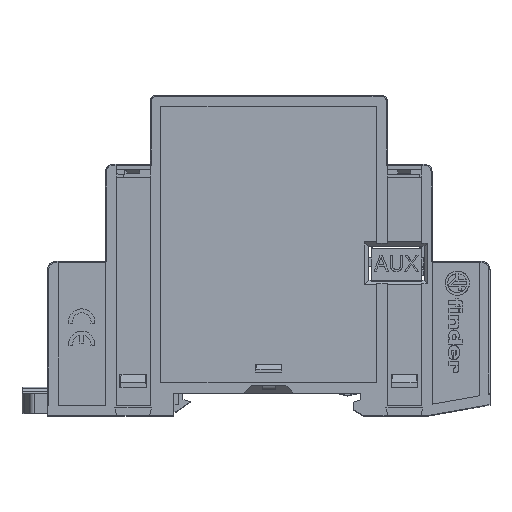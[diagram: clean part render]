
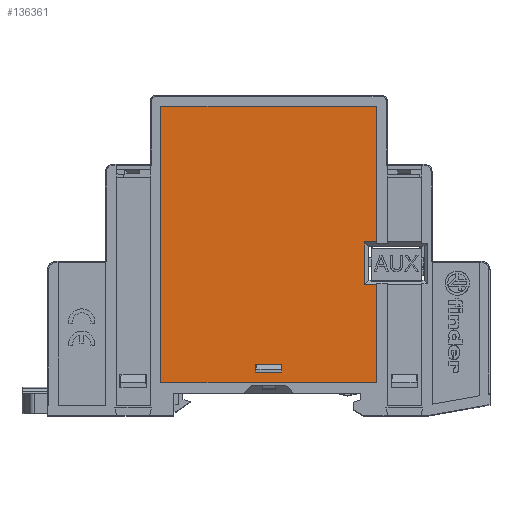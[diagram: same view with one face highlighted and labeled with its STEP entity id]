
A CAD part, top view. The second image highlights one B-rep face of the part: STEP entity #136361.
In plain terms, the highlighted planar face has unit normal (0, 0, 1).
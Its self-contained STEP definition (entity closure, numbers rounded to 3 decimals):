
#10117=ORIENTED_EDGE('',*,*,#36005,.F.);
#10118=ORIENTED_EDGE('',*,*,#36000,.F.);
#10119=ORIENTED_EDGE('',*,*,#35999,.F.);
#10120=ORIENTED_EDGE('',*,*,#36003,.T.);
#10121=ORIENTED_EDGE('',*,*,#35994,.F.);
#10122=ORIENTED_EDGE('',*,*,#35991,.F.);
#10123=ORIENTED_EDGE('',*,*,#36006,.F.);
#10124=ORIENTED_EDGE('',*,*,#36007,.F.);
#10125=ORIENTED_EDGE('',*,*,#36008,.T.);
#10126=ORIENTED_EDGE('',*,*,#36009,.F.);
#10127=ORIENTED_EDGE('',*,*,#36010,.F.);
#10128=ORIENTED_EDGE('',*,*,#36011,.F.);
#35991=EDGE_CURVE('',#49440,#49441,#59439,.T.);
#35994=EDGE_CURVE('',#49441,#49443,#59442,.T.);
#35999=EDGE_CURVE('',#49447,#49444,#59447,.T.);
#36000=EDGE_CURVE('',#49444,#49448,#59448,.T.);
#36003=EDGE_CURVE('',#49447,#49443,#59451,.T.);
#36005=EDGE_CURVE('',#49448,#49450,#59453,.T.);
#36006=EDGE_CURVE('',#49451,#49440,#59454,.T.);
#36007=EDGE_CURVE('',#49450,#49451,#59455,.T.);
#36008=EDGE_CURVE('',#49452,#49453,#59456,.T.);
#36009=EDGE_CURVE('',#49454,#49453,#59457,.T.);
#36010=EDGE_CURVE('',#49455,#49454,#59458,.T.);
#36011=EDGE_CURVE('',#49452,#49455,#59459,.T.);
#49440=VERTEX_POINT('',#180607);
#49441=VERTEX_POINT('',#180609);
#49443=VERTEX_POINT('',#180615);
#49444=VERTEX_POINT('',#180619);
#49447=VERTEX_POINT('',#180624);
#49448=VERTEX_POINT('',#180628);
#49450=VERTEX_POINT('',#180637);
#49451=VERTEX_POINT('',#180639);
#49452=VERTEX_POINT('',#180642);
#49453=VERTEX_POINT('',#180643);
#49454=VERTEX_POINT('',#180645);
#49455=VERTEX_POINT('',#180647);
#59439=LINE('',#180608,#71971);
#59442=LINE('',#180614,#71974);
#59447=LINE('',#180625,#71979);
#59448=LINE('',#180627,#71980);
#59451=LINE('',#180633,#71983);
#59453=LINE('',#180636,#71985);
#59454=LINE('',#180638,#71986);
#59455=LINE('',#180640,#71987);
#59456=LINE('',#180641,#71988);
#59457=LINE('',#180644,#71989);
#59458=LINE('',#180646,#71990);
#59459=LINE('',#180648,#71991);
#71971=VECTOR('',#153770,1000.);
#71974=VECTOR('',#153775,1000.);
#71979=VECTOR('',#153782,1000.);
#71980=VECTOR('',#153785,1000.);
#71983=VECTOR('',#153790,1000.);
#71985=VECTOR('',#153794,1000.);
#71986=VECTOR('',#153795,1000.);
#71987=VECTOR('',#153796,1000.);
#71988=VECTOR('',#153797,1000.);
#71989=VECTOR('',#153798,1000.);
#71990=VECTOR('',#153799,1000.);
#71991=VECTOR('',#153800,1000.);
#83331=EDGE_LOOP('',(#10117,#10118,#10119,#10120,#10121,#10122,#10123,#10124));
#83332=EDGE_LOOP('',(#10125,#10126,#10127,#10128));
#89301=FACE_BOUND('',#83331,.T.);
#89302=FACE_BOUND('',#83332,.T.);
#94757=PLANE('',#142302);
#136361=ADVANCED_FACE('',(#89301,#89302),#94757,.T.);
#142302=AXIS2_PLACEMENT_3D('',#180635,#153792,#153793);
#153770=DIRECTION('',(0.,-1.,0.));
#153775=DIRECTION('',(-1.,0.,0.));
#153782=DIRECTION('',(1.,0.,0.));
#153785=DIRECTION('',(0.,-1.,0.));
#153790=DIRECTION('',(0.,-1.,0.));
#153792=DIRECTION('',(0.,0.,1.));
#153793=DIRECTION('',(1.,0.,0.));
#153794=DIRECTION('',(-1.,0.,0.));
#153795=DIRECTION('',(1.,0.,0.));
#153796=DIRECTION('',(0.,-1.,0.));
#153797=DIRECTION('',(0.,-1.,0.));
#153798=DIRECTION('',(1.,0.,0.));
#153799=DIRECTION('',(0.,-1.,0.));
#153800=DIRECTION('',(-1.,0.,0.));
#180607=CARTESIAN_POINT('',(20.5,-28.4,0.));
#180608=CARTESIAN_POINT('',(20.5,5.5,0.));
#180609=CARTESIAN_POINT('',(20.5,-47.,0.));
#180614=CARTESIAN_POINT('',(20.5,-47.,0.));
#180615=CARTESIAN_POINT('',(-20.5,-47.,0.));
#180619=CARTESIAN_POINT('',(20.5,5.5,0.));
#180624=CARTESIAN_POINT('',(-20.5,5.5,0.));
#180625=CARTESIAN_POINT('',(-20.5,5.5,0.));
#180627=CARTESIAN_POINT('',(20.5,5.5,0.));
#180628=CARTESIAN_POINT('',(20.5,-20.3,0.));
#180633=CARTESIAN_POINT('',(-20.5,5.5,0.));
#180635=CARTESIAN_POINT('',(-20.501,-47.001,0.));
#180636=CARTESIAN_POINT('',(-20.501,-20.3,0.));
#180637=CARTESIAN_POINT('',(18.2,-20.3,0.));
#180638=CARTESIAN_POINT('',(-20.501,-28.4,0.));
#180639=CARTESIAN_POINT('',(18.2,-28.4,0.));
#180640=CARTESIAN_POINT('',(18.2,-47.001,0.));
#180641=CARTESIAN_POINT('',(2.5,-43.5,0.));
#180642=CARTESIAN_POINT('',(2.5,-43.5,0.));
#180643=CARTESIAN_POINT('',(2.5,-45.,0.));
#180644=CARTESIAN_POINT('',(-2.5,-45.,0.));
#180645=CARTESIAN_POINT('',(-2.5,-45.,0.));
#180646=CARTESIAN_POINT('',(-2.5,-43.5,0.));
#180647=CARTESIAN_POINT('',(-2.5,-43.5,0.));
#180648=CARTESIAN_POINT('',(2.5,-43.5,0.));
